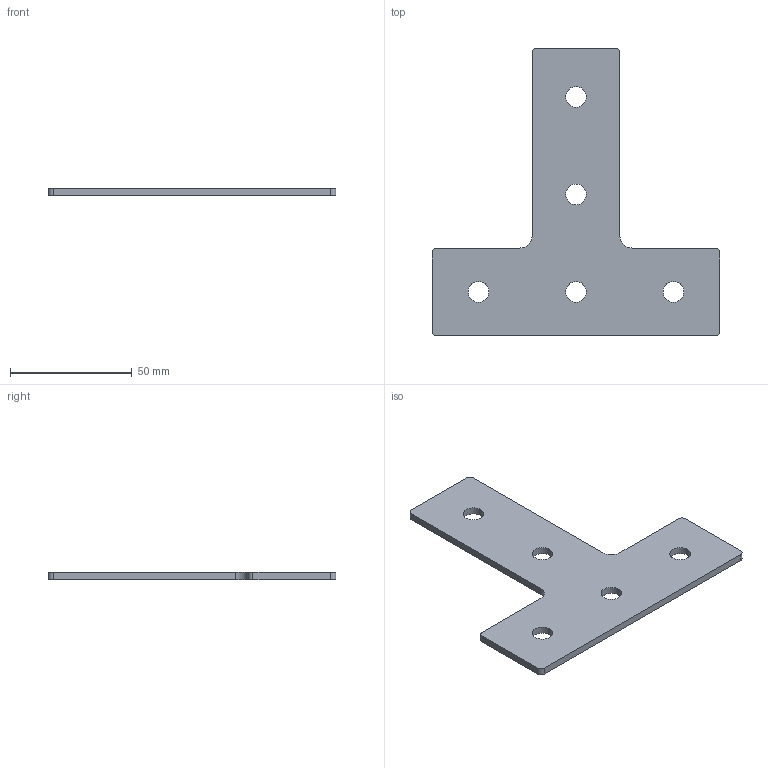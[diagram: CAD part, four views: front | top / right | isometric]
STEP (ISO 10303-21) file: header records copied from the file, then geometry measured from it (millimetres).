
FILE_DESCRIPTION(/* description */ ('Unknown'),/* implementation_level */ '2;1');
FILE_NAME(/* name */ 'CJP4040T',/* time_stamp */ '2018-12-06T16:14:34+00:00',/* author */ ('Unknown'),/* organization */ ('Unknown'),/* preprocessor_version */ 'ST-DEVELOPER v16.7',/* originating_system */ 'DEX',/* authorisation */ $);
FILE_SCHEMA (('AUTOMOTIVE_DESIGN {1 0 10303 214 3 1 1}'));
Length unit declared in the file: millimetre
Products named in the file (1): CJP4040T
Bounding box: 118 x 118 x 3 mm (x, y, z)
Volume: 20765.6 mm3; surface area: 15631.9 mm2
Topology: 1 solids, 1 shells, 23 faces, 63 edges, 42 vertices
Faces by surface type: cylinder 13, plane 10
Full cylindrical faces by diameter (mm): 8.5 x5
Entity records: 768 total; most frequent: DIRECTION 132, CARTESIAN_POINT 124, ORIENTED_EDGE 116, EDGE_CURVE 58, AXIS2_PLACEMENT_3D 50, VERTEX_POINT 42, EDGE_LOOP 38, FACE_BOUND 38
